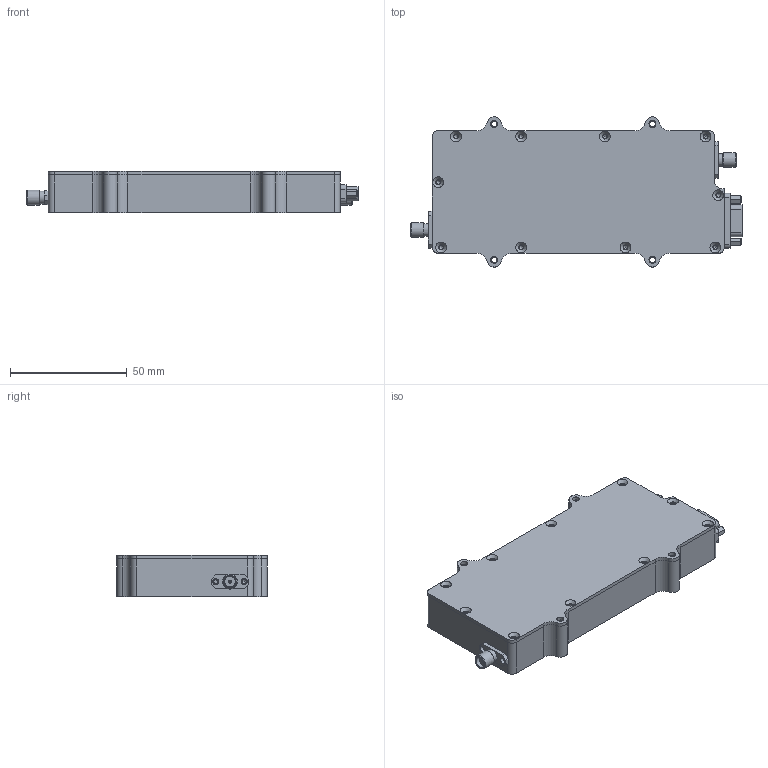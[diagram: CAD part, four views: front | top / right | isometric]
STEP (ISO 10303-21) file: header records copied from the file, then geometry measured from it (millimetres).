
FILE_DESCRIPTION((''),'2;1');
FILE_NAME('\\SERPENTOR\Engineering\ENG\Models\TTRMxxxx\TTRM1116\Inventor\155.stp','2017-05-18T17:02:55',('Jack Slater'),(''),'Autodesk Inventor 2013','Autodesk Inventor 2013','');
FILE_SCHEMA(('AUTOMOTIVE_DESIGN { 1 0 10303 214 1 1 1 1 }'));
Length unit declared in the file: inch
Products named in the file (7): TTRM1116; T531491009R1; 410-010; 400-074; T501491009; Regular Helical Spring Lock Washer (Inch) No.2; 561-011
Assembly tree (8 placements, depth 2):
  TTRM1116
    T531491009R1
    410-010  x2
    400-074
    T501491009
    Regular Helical Spring Lock Washer (Inch) No.2
    561-011  x2
Bounding box: 142.24 x 64.34 x 17.78 mm (x, y, z)
Volume: 43571.4 mm3; surface area: 42842.9 mm2
Topology: 8 solids, 8 shells, 614 faces, 1580 edges, 1060 vertices
Faces by surface type: plane 271, cylinder 260, bspline 53, cone 30
Full cylindrical faces by diameter (mm): 0.635 x15, 0.737 x2, 0.889 x15, 1.016 x1, 1.194 x18, 1.245 x2, 1.27 x2, 1.295 x2, 1.702 x22, 2.159 x2, 2.184 x2, 2.438 x12, 2.464 x10, 2.54 x2, 2.591 x4, 2.997 x4, 4.115 x2, 4.216 x2, 4.597 x2, 5.486 x4, 6.35 x2
Entity records: 17476 total; most frequent: CARTESIAN_POINT 3710, DIRECTION 2741, ORIENTED_EDGE 2574, EDGE_CURVE 1287, AXIS2_PLACEMENT_3D 1034, VERTEX_POINT 937, EDGE_LOOP 880, VECTOR 673
